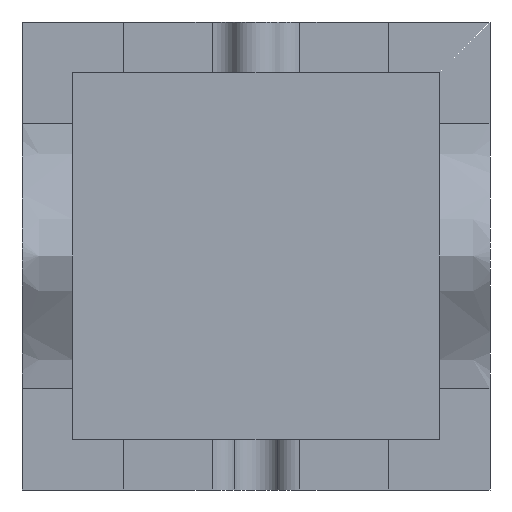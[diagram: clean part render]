
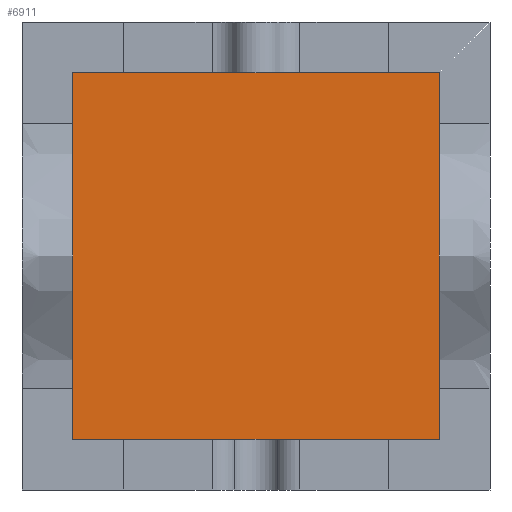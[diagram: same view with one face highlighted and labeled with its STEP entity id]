
A CAD part, front view. The second image highlights one B-rep face of the part: STEP entity #6911.
In plain terms, the highlighted planar face has unit normal (0, -1, 0).
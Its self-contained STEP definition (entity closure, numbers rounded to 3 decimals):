
#6785=CARTESIAN_POINT('Vertex',(-20.,-30.,-20.)) ;
#6790=CARTESIAN_POINT('Line Origine',(-20.,-30.,52.5)) ;
#6794=CARTESIAN_POINT('Vertex',(-20.,-30.,125.)) ;
#6821=CARTESIAN_POINT('Line Origine',(52.5,-30.,125.)) ;
#6825=CARTESIAN_POINT('Vertex',(125.,-30.,125.)) ;
#6852=CARTESIAN_POINT('Line Origine',(125.,-30.,52.5)) ;
#6856=CARTESIAN_POINT('Vertex',(125.,-30.,-20.)) ;
#6883=CARTESIAN_POINT('Line Origine',(52.5,-30.,-20.)) ;
#6900=CARTESIAN_POINT('Axis2P3D Location',(0.,-30.,0.)) ;
#6791=DIRECTION('Vector Direction',(0.,0.,-1.)) ;
#6822=DIRECTION('Vector Direction',(1.,0.,0.)) ;
#6853=DIRECTION('Vector Direction',(0.,0.,1.)) ;
#6884=DIRECTION('Vector Direction',(-1.,0.,0.)) ;
#6901=DIRECTION('Axis2P3D Direction',(0.,1.,0.)) ;
#6902=DIRECTION('Axis2P3D XDirection',(-1.,0.,0.)) ;
#6903=AXIS2_PLACEMENT_3D('Plane Axis2P3D',#6900,#6901,#6902) ;
#6906=ORIENTED_EDGE('',*,*,#6887,.F.) ;
#6907=ORIENTED_EDGE('',*,*,#6858,.F.) ;
#6908=ORIENTED_EDGE('',*,*,#6827,.F.) ;
#6909=ORIENTED_EDGE('',*,*,#6796,.F.) ;
#6792=VECTOR('Line Direction',#6791,1.) ;
#6823=VECTOR('Line Direction',#6822,1.) ;
#6854=VECTOR('Line Direction',#6853,1.) ;
#6885=VECTOR('Line Direction',#6884,1.) ;
#6911=ADVANCED_FACE('Cavity-molde',(#6910),#6904,.F.) ;
#6796=EDGE_CURVE('',#6786,#6795,#6793,.F.) ;
#6827=EDGE_CURVE('',#6795,#6826,#6824,.T.) ;
#6858=EDGE_CURVE('',#6826,#6857,#6855,.F.) ;
#6887=EDGE_CURVE('',#6857,#6786,#6886,.T.) ;
#6905=EDGE_LOOP('',(#6906,#6907,#6908,#6909)) ;
#6910=FACE_OUTER_BOUND('',#6905,.T.) ;
#6793=LINE('Line',#6790,#6792) ;
#6824=LINE('Line',#6821,#6823) ;
#6855=LINE('Line',#6852,#6854) ;
#6886=LINE('Line',#6883,#6885) ;
#6904=PLANE('',#6903) ;
#6786=VERTEX_POINT('',#6785) ;
#6795=VERTEX_POINT('',#6794) ;
#6826=VERTEX_POINT('',#6825) ;
#6857=VERTEX_POINT('',#6856) ;
